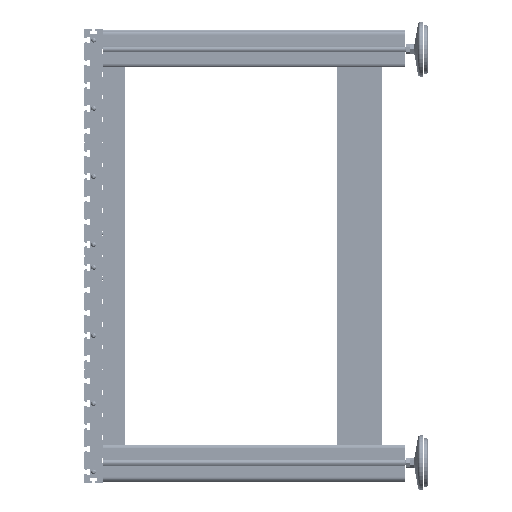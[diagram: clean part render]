
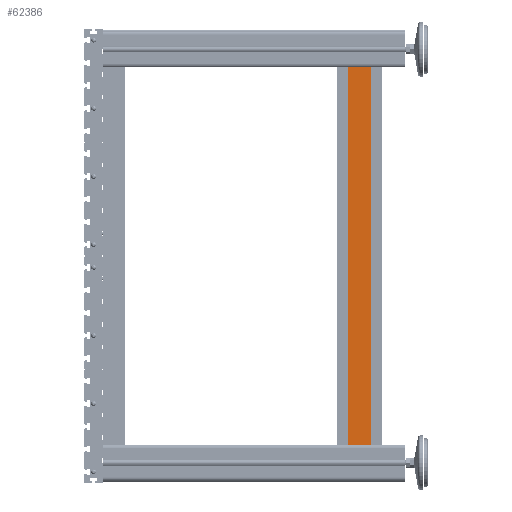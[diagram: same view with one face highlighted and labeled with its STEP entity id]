
A CAD part, left-side view. The second image highlights one B-rep face of the part: STEP entity #62386.
In plain terms, the highlighted planar face has unit normal (-1, 0, 0).
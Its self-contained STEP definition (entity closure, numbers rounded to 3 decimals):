
#12290 = CARTESIAN_POINT ( 'NONE',  ( -698., 150., 415. ) ) ;
#12312 = DIRECTION ( 'NONE',  ( 0., -1., 0. ) ) ;
#12934 = DIRECTION ( 'NONE',  ( 0., -1., 0. ) ) ;
#12939 = CARTESIAN_POINT ( 'NONE',  ( -698., 150., -415. ) ) ;
#13337 = CARTESIAN_POINT ( 'NONE',  ( -698., 75.3, -415. ) ) ;
#13341 = CARTESIAN_POINT ( 'NONE',  ( -698., 124.7, -415. ) ) ;
#13357 = DIRECTION ( 'NONE',  ( 0., 0., 1. ) ) ;
#13367 = DIRECTION ( 'NONE',  ( 0., 0., 1. ) ) ;
#14031 = LINE ( 'NONE', #12290, #14049 ) ;
#14049 = VECTOR ( 'NONE', #12312, 1000. ) ;
#38139 = LINE ( 'NONE', #12939, #38144 ) ;
#38144 = VECTOR ( 'NONE', #12934, 1000. ) ;
#38262 = LINE ( 'NONE', #13337, #38275 ) ;
#38270 = LINE ( 'NONE', #13341, #38278 ) ;
#38275 = VECTOR ( 'NONE', #13357, 1000. ) ;
#38278 = VECTOR ( 'NONE', #13367, 1000. ) ;
#46658 = AXIS2_PLACEMENT_3D ( 'NONE', #161106, #161109, #161112 ) ;
#62386 = ADVANCED_FACE ( 'NONE', ( #187865 ), #161090, .F. ) ;
#74051 = CARTESIAN_POINT ( 'NONE',  ( -698., 75.3, -415. ) ) ;
#74968 = CARTESIAN_POINT ( 'NONE',  ( -698., 75.3, 415. ) ) ;
#75068 = CARTESIAN_POINT ( 'NONE',  ( -698., 124.7, 415. ) ) ;
#75217 = CARTESIAN_POINT ( 'NONE',  ( -698., 124.7, -415. ) ) ;
#90181 = EDGE_LOOP ( 'NONE', ( #156765, #156755, #156745, #156737 ) ) ;
#144794 = VERTEX_POINT ( 'NONE', #74051 ) ;
#145220 = VERTEX_POINT ( 'NONE', #74968 ) ;
#145276 = VERTEX_POINT ( 'NONE', #75068 ) ;
#145368 = VERTEX_POINT ( 'NONE', #75217 ) ;
#156737 = ORIENTED_EDGE ( 'NONE', *, *, #185411, .T. ) ;
#156745 = ORIENTED_EDGE ( 'NONE', *, *, #185570, .F. ) ;
#156755 = ORIENTED_EDGE ( 'NONE', *, *, #185227, .F. ) ;
#156765 = ORIENTED_EDGE ( 'NONE', *, *, #185565, .T. ) ;
#161090 = PLANE ( 'NONE',  #46658 ) ;
#161106 = CARTESIAN_POINT ( 'NONE',  ( -698., 150., 415. ) ) ;
#161109 = DIRECTION ( 'NONE',  ( 1., 0., 0. ) ) ;
#161112 = DIRECTION ( 'NONE',  ( 0., 0., -1. ) ) ;
#185227 = EDGE_CURVE ( 'NONE', #145276, #145220, #14031, .T. ) ;
#185411 = EDGE_CURVE ( 'NONE', #145368, #144794, #38139, .T. ) ;
#185565 = EDGE_CURVE ( 'NONE', #144794, #145220, #38262, .T. ) ;
#185570 = EDGE_CURVE ( 'NONE', #145368, #145276, #38270, .T. ) ;
#187865 = FACE_OUTER_BOUND ( 'NONE', #90181, .T. ) ;
